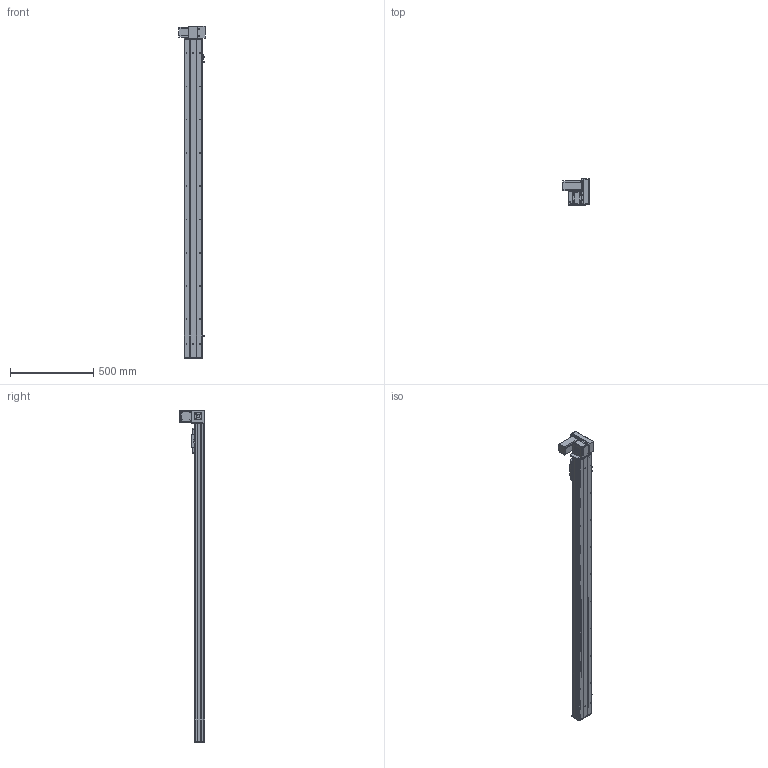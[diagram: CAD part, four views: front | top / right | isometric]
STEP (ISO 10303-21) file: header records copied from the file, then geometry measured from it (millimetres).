
FILE_DESCRIPTION (( 'STEP AP203' ), '1' );
FILE_NAME ('Y10CB-D90-S1650-UR-P400W.STEP', '2020-02-16T03:52:35', ( '微软用户' ), ( '微软中国' ), 'SwSTEP 2.0', 'SolidWorks 2017', '' );
FILE_SCHEMA (( 'CONFIG_CONTROL_DESIGN' ));
Length unit declared in the file: millimetre
Products named in the file (18): Y135C-陔俋离換覜結え-; san松下电机400不带刹车----; Y100-135俋离換覜ん--; 0B-源倛裔啣; Y10B--々湍喘謫眊--666; 0B-埴倛裔啣; Y10B-耜蚾蟀諉啣----; 10CB-詩湍-; 00B-俋欶BM--; Y10CB- 掛极耜裔啣-毀---; 0CB-雄赽釱---; Y10CB-D90-S1650-UR-P400W; Y10C---詩湍揤啣; 0Cb-俋欶---; 10CB9-掛极; Y10B-々湍喘謫眊楊擘啣--; 10CB-耜裔; 0B-萇儂楊擘啣
Assembly tree (21 placements, depth 2):
  Y10CB-D90-S1650-UR-P400W
    0CB-雄赽釱---
    0Cb-俋欶---
    Y10B-々湍喘謫眊楊擘啣--
    0B-萇儂楊擘啣
    san松下电机400不带刹车----
    0B-源倛裔啣
    0B-埴倛裔啣
    10CB-詩湍-
    Y10CB- 掛极耜裔啣-毀---  x2
    Y10C---詩湍揤啣  x2
    10CB9-掛极
    10CB-耜裔
    Y135C-陔俋离換覜結え-
    Y100-135俋离換覜ん--  x3
    Y10B--々湍喘謫眊--666
    Y10B-耜蚾蟀諉啣----
    00B-俋欶BM--
Bounding box: 157 x 155.5 x 1996 mm (x, y, z)
Volume: 4270203.6 mm3; surface area: 1983752.3 mm2
Topology: 21 solids, 21 shells, 1026 faces, 2763 edges, 1802 vertices
Faces by surface type: cylinder 519, plane 483, cone 24
Entity records: 32412 total; most frequent: CARTESIAN_POINT 5913, DIRECTION 5202, ORIENTED_EDGE 4996, EDGE_CURVE 2498, AXIS2_PLACEMENT_3D 1861, VERTEX_POINT 1628, VECTOR 1480, LINE 1480
